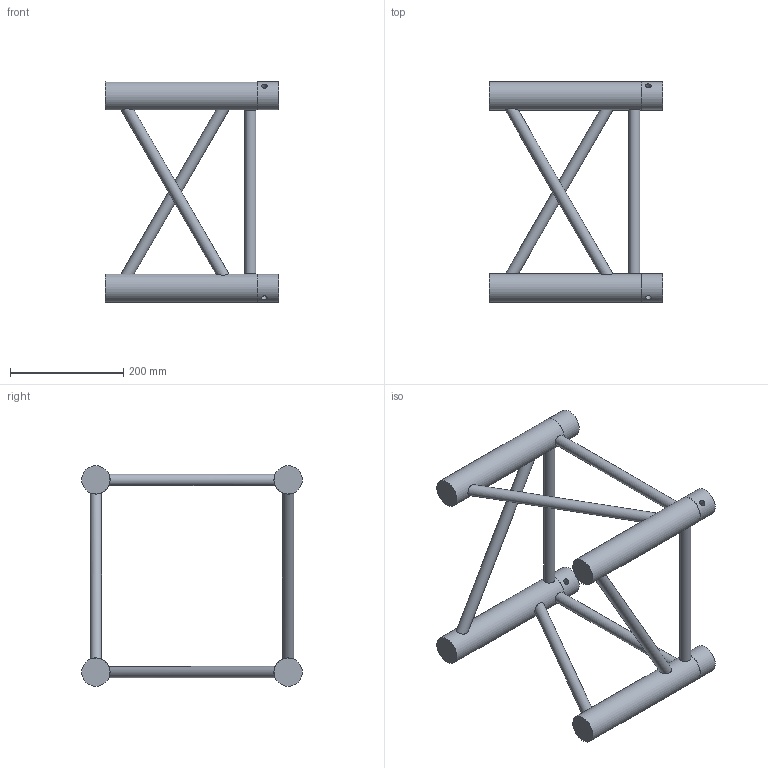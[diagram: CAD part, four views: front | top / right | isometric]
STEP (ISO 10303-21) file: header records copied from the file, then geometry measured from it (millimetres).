
FILE_DESCRIPTION(/* description */ (''),/* implementation_level */ '2;1');
FILE_NAME(/* name */ 'M:\Symbolen_NIEUW\STP\Boxcorner\211130005.stp',/* time_stamp */ '2015-06-05T14:06:43+02:00',/* author */ ('Sietse'),/* organization */ (''),/* preprocessor_version */ 'ST-DEVELOPER v15.6',/* originating_system */ 'Autodesk Inventor 2015',/* authorisation */ '');
FILE_SCHEMA (('AUTOMOTIVE_DESIGN { 1 0 10303 214 3 1 1 }'));
Length unit declared in the file: millimetre
Products named in the file (1): 160024380
Bounding box: 305.5 x 388.81 x 388.81 mm (x, y, z)
Volume: 2320426.3 mm3; surface area: 375527.8 mm2
Topology: 8 solids, 12 shells, 56 faces, 96 edges, 64 vertices
Faces by surface type: plane 28, cylinder 28
Full cylindrical faces by diameter (mm): 10 x4, 20 x8, 49.5 x4, 50 x4
Entity records: 1715 total; most frequent: CARTESIAN_POINT 729, DIRECTION 170, ORIENTED_EDGE 144, EDGE_LOOP 96, AXIS2_PLACEMENT_3D 81, EDGE_CURVE 64, VERTEX_POINT 56, STYLED_ITEM 49
